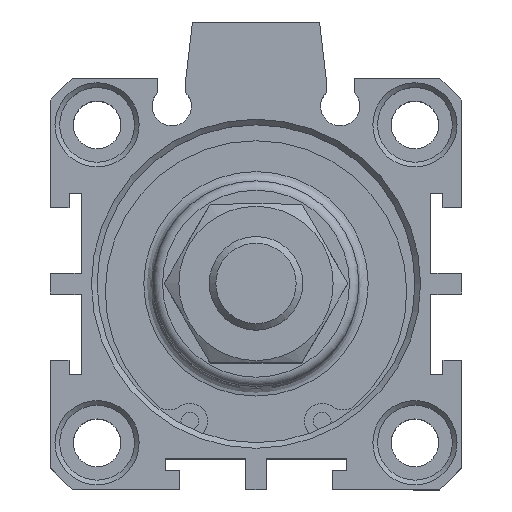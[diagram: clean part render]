
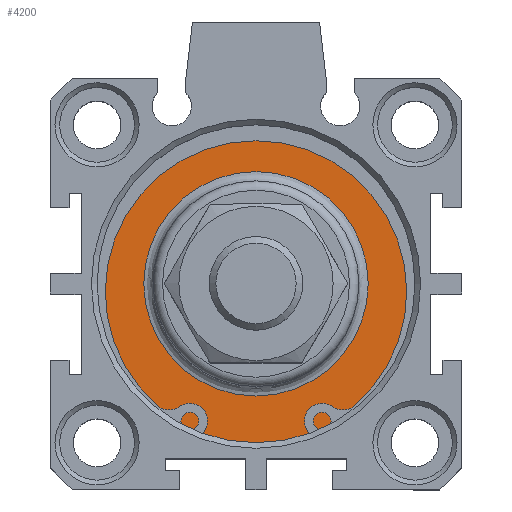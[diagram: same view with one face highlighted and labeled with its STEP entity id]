
A CAD part, top view. The second image highlights one B-rep face of the part: STEP entity #4200.
In plain terms, the highlighted planar face has unit normal (0, 0, 1).
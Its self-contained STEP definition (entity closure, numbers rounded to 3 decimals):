
#4149=CARTESIAN_POINT('',(2.273,12.598,30.8));
#4150=VERTEX_POINT('',#4149);
#4151=CARTESIAN_POINT('',(2.273,0.598,30.8));
#4152=DIRECTION('',(0.0,0.0,1.0));
#4153=DIRECTION('',(0.0,-1.0,0.0));
#4154=AXIS2_PLACEMENT_3D('',#4151,#4152,#4153);
#4155=CIRCLE('',#4154,12.0);
#4156=EDGE_CURVE('',#4150,#4150,#4155,.T.);
#4181=CARTESIAN_POINT('',(2.273,14.598,30.8));
#4182=DIRECTION('',(0.0,0.0,1.0));
#4183=DIRECTION('',(1.0,0.0,0.0));
#4184=AXIS2_PLACEMENT_3D('',#4181,#4182,#4183);
#4185=PLANE('',#4184);
#4186=CARTESIAN_POINT('',(2.273,17.598,30.8));
#4187=VERTEX_POINT('',#4186);
#4188=CARTESIAN_POINT('',(2.273,0.598,30.8));
#4189=DIRECTION('',(0.0,0.0,-1.0));
#4190=DIRECTION('',(0.0,1.0,0.0));
#4191=AXIS2_PLACEMENT_3D('',#4188,#4189,#4190);
#4192=CIRCLE('',#4191,17.);
#4193=EDGE_CURVE('',#4187,#4187,#4192,.T.);
#4194=ORIENTED_EDGE('',*,*,#4193,.F.);
#4195=EDGE_LOOP('',(#4194));
#4196=FACE_OUTER_BOUND('',#4195,.T.);
#4197=ORIENTED_EDGE('',*,*,#4156,.F.);
#4198=EDGE_LOOP('',(#4197));
#4199=FACE_BOUND('',#4198,.T.);
#4200=ADVANCED_FACE('',(#4196,#4199),#4185,.T.);
